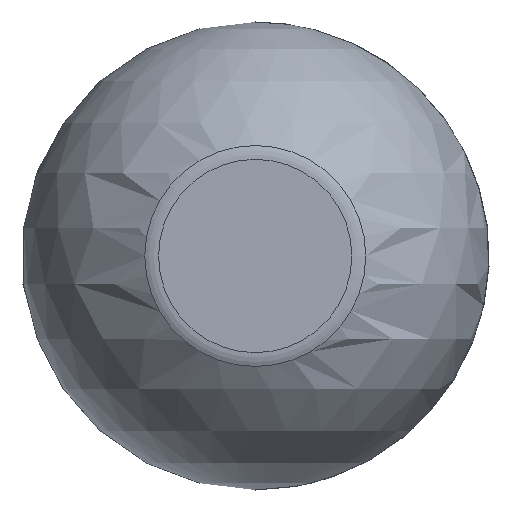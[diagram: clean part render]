
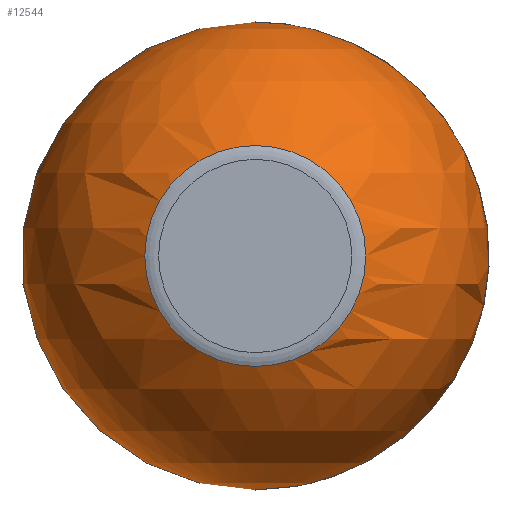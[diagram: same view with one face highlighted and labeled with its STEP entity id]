
A CAD part, left-side view. The second image highlights one B-rep face of the part: STEP entity #12544.
In plain terms, the highlighted spherical face has radius 12.179 mm.
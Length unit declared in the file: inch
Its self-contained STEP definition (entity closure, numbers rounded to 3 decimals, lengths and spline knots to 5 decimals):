
#2977=SPHERICAL_SURFACE('',#13318,0.4795);
#3408=FACE_BOUND('',#4226,.T.);
#3409=FACE_BOUND('',#4227,.T.);
#4226=EDGE_LOOP('',(#8627));
#4227=EDGE_LOOP('',(#8628));
#5030=CIRCLE('',#13310,0.26464);
#5033=CIRCLE('',#13317,0.2265);
#5351=VERTEX_POINT('',#16773);
#5354=VERTEX_POINT('',#16783);
#6661=EDGE_CURVE('',#5351,#5351,#5030,.T.);
#6664=EDGE_CURVE('',#5354,#5354,#5033,.T.);
#8627=ORIENTED_EDGE('',*,*,#6661,.T.);
#8628=ORIENTED_EDGE('',*,*,#6664,.T.);
#12544=ADVANCED_FACE('',(#3408,#3409),#2977,.T.);
#13310=AXIS2_PLACEMENT_3D('',#16774,#14148,#14149);
#13317=AXIS2_PLACEMENT_3D('',#16784,#14162,#14163);
#13318=AXIS2_PLACEMENT_3D('',#16785,#14164,#14165);
#14148=DIRECTION('center_axis',(-1.,0.,0.));
#14149=DIRECTION('ref_axis',(0.,0.,-1.));
#14162=DIRECTION('center_axis',(1.,0.,0.));
#14163=DIRECTION('ref_axis',(0.,0.,-1.));
#14164=DIRECTION('center_axis',(0.,0.,1.));
#14165=DIRECTION('ref_axis',(1.,0.,0.));
#16773=CARTESIAN_POINT('',(-0.46231,0.14868,0.));
#16774=CARTESIAN_POINT('Origin',(-0.46231,0.41332,0.));
#16783=CARTESIAN_POINT('',(-1.2848,0.63982,0.));
#16784=CARTESIAN_POINT('Origin',(-1.2848,0.41332,0.));
#16785=CARTESIAN_POINT('Origin',(-0.86217,0.41332,0.));
